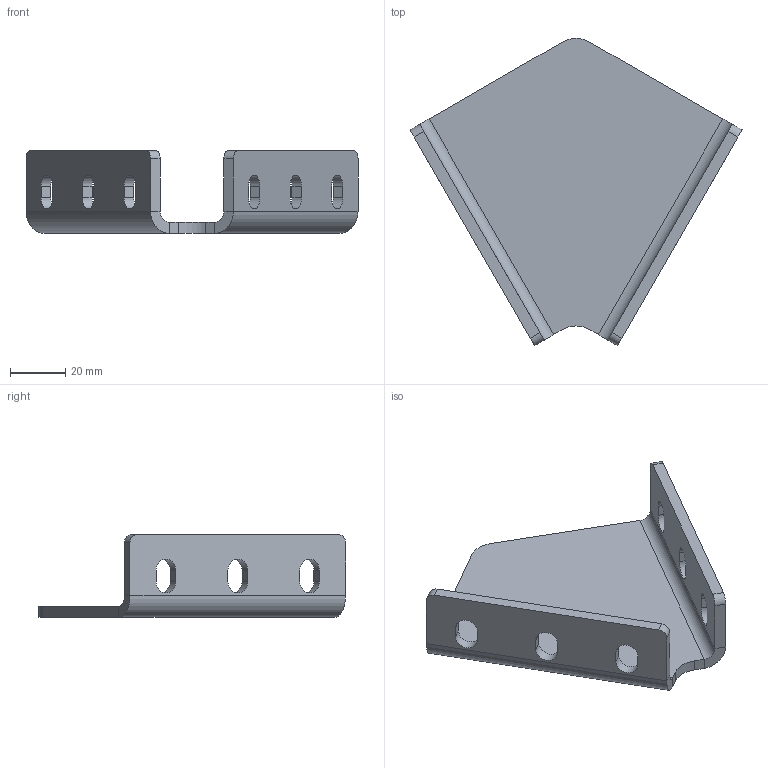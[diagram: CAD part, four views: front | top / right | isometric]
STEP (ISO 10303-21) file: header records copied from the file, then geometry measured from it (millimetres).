
FILE_DESCRIPTION (( 'STEP AP214' ), '1' );
FILE_NAME ('309060.STEP', '2019-11-01T08:05:47', ( '' ), ( '' ), 'SwSTEP 2.0', 'SolidWorks 2014', '' );
FILE_SCHEMA (( 'AUTOMOTIVE_DESIGN' ));
Length unit declared in the file: millimetre
Products named in the file (2): 309060
Bounding box: 120 x 111.04 x 30 mm (x, y, z)
Volume: 45957.2 mm3; surface area: 25547.3 mm2
Topology: 1 solids, 1 shells, 54 faces, 140 edges, 88 vertices
Faces by surface type: plane 32, cylinder 22
Entity records: 1713 total; most frequent: DIRECTION 296, CARTESIAN_POINT 284, ORIENTED_EDGE 280, EDGE_CURVE 140, AXIS2_PLACEMENT_3D 100, LINE 96, VECTOR 96, VERTEX_POINT 88
